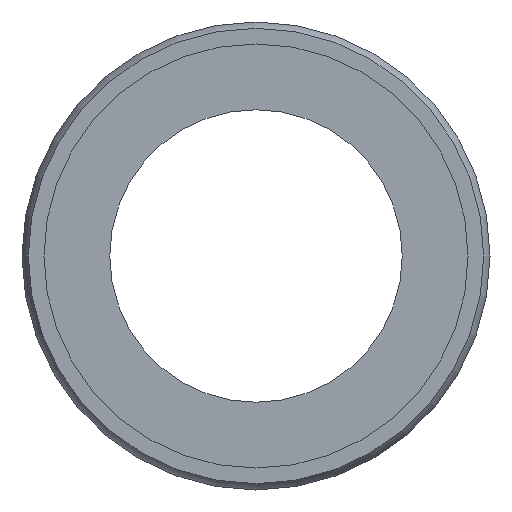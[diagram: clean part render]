
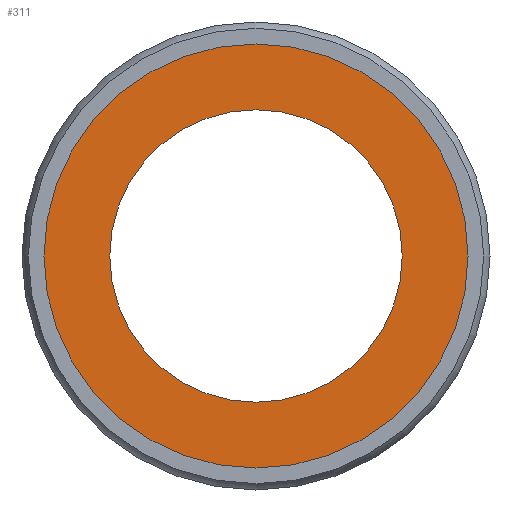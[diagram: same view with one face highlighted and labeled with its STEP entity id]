
A CAD part, left-side view. The second image highlights one B-rep face of the part: STEP entity #311.
In plain terms, the highlighted planar face has unit normal (-1, 0, 0).
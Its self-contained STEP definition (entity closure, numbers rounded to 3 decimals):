
#277=CARTESIAN_POINT('',(0.1,0.0,14.5));
#278=VERTEX_POINT('',#277);
#279=CARTESIAN_POINT('',(0.1,0.0,0.));
#280=DIRECTION('',(-1.0,0.0,0.0));
#281=DIRECTION('',(0.0,0.0,1.0));
#282=AXIS2_PLACEMENT_3D('',#279,#280,#281);
#283=CIRCLE('',#282,14.5);
#284=EDGE_CURVE('',#278,#278,#283,.T.);
#292=CARTESIAN_POINT('',(0.1,0.0,12.25));
#293=DIRECTION('',(-1.0,0.0,0.0));
#294=DIRECTION('',(0.0,0.0,1.0));
#295=AXIS2_PLACEMENT_3D('',#292,#293,#294);
#296=PLANE('',#295);
#297=ORIENTED_EDGE('',*,*,#284,.T.);
#298=EDGE_LOOP('',(#297));
#299=FACE_OUTER_BOUND('',#298,.T.);
#300=CARTESIAN_POINT('',(0.1,0.0,10.));
#301=VERTEX_POINT('',#300);
#302=CARTESIAN_POINT('',(0.1,0.0,0.));
#303=DIRECTION('',(-1.0,0.0,0.0));
#304=DIRECTION('',(0.0,0.0,1.0));
#305=AXIS2_PLACEMENT_3D('',#302,#303,#304);
#306=CIRCLE('',#305,10.);
#307=EDGE_CURVE('',#301,#301,#306,.T.);
#308=ORIENTED_EDGE('',*,*,#307,.F.);
#309=EDGE_LOOP('',(#308));
#310=FACE_BOUND('',#309,.T.);
#311=ADVANCED_FACE('',(#299,#310),#296,.T.);
